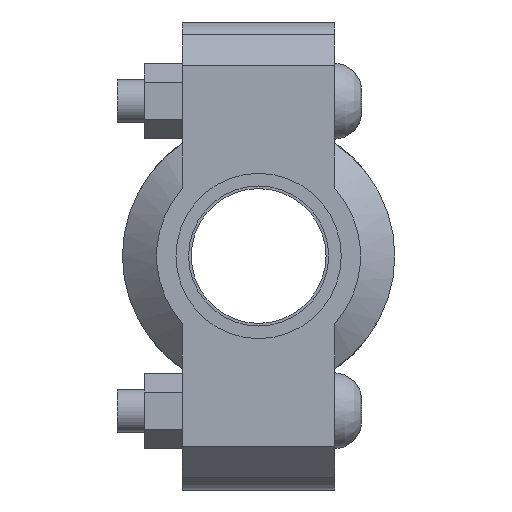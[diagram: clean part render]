
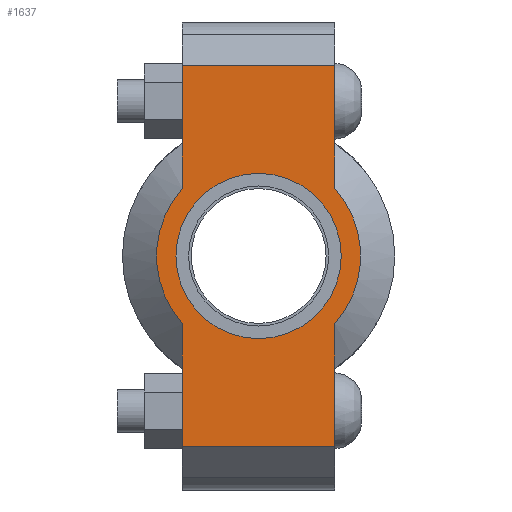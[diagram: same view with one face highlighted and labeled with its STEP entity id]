
A CAD part, left-side view. The second image highlights one B-rep face of the part: STEP entity #1637.
In plain terms, the highlighted planar face has unit normal (-1, 0, 0) as drawn and (0, 0, 1) by its records, which use the part's own axes.
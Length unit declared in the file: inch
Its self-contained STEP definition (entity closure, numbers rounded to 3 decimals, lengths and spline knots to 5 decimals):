
#192=LINE('',#2831,#289);
#207=LINE('',#2890,#304);
#215=LINE('',#2920,#312);
#217=LINE('',#2923,#314);
#218=LINE('',#2928,#315);
#219=LINE('',#2929,#316);
#289=VECTOR('',#2299,0.3937);
#304=VECTOR('',#2334,0.3937);
#312=VECTOR('',#2354,0.3937);
#314=VECTOR('',#2358,0.3937);
#315=VECTOR('',#2363,0.3937);
#316=VECTOR('',#2364,0.3937);
#380=FACE_BOUND('',#557,.T.);
#448=FACE_OUTER_BOUND('',#556,.T.);
#556=EDGE_LOOP('',(#1338,#1339,#1340,#1341,#1342,#1343,#1344,#1345));
#557=EDGE_LOOP('',(#1346));
#639=CIRCLE('',#1865,0.95);
#663=CIRCLE('',#1917,1.172);
#664=CIRCLE('',#1918,1.172);
#735=VERTEX_POINT('',#2657);
#776=VERTEX_POINT('',#2828);
#777=VERTEX_POINT('',#2830);
#798=VERTEX_POINT('',#2885);
#799=VERTEX_POINT('',#2889);
#808=VERTEX_POINT('',#2915);
#809=VERTEX_POINT('',#2919);
#810=VERTEX_POINT('',#2925);
#811=VERTEX_POINT('',#2927);
#899=EDGE_CURVE('',#735,#735,#639,.T.);
#956=EDGE_CURVE('',#777,#776,#192,.T.);
#981=EDGE_CURVE('',#799,#798,#207,.T.);
#994=EDGE_CURVE('',#809,#808,#215,.T.);
#996=EDGE_CURVE('',#809,#776,#217,.T.);
#997=EDGE_CURVE('',#808,#810,#663,.T.);
#998=EDGE_CURVE('',#810,#811,#218,.T.);
#999=EDGE_CURVE('',#799,#811,#219,.T.);
#1000=EDGE_CURVE('',#798,#777,#664,.T.);
#1338=ORIENTED_EDGE('',*,*,#996,.F.);
#1339=ORIENTED_EDGE('',*,*,#994,.T.);
#1340=ORIENTED_EDGE('',*,*,#997,.T.);
#1341=ORIENTED_EDGE('',*,*,#998,.T.);
#1342=ORIENTED_EDGE('',*,*,#999,.F.);
#1343=ORIENTED_EDGE('',*,*,#981,.T.);
#1344=ORIENTED_EDGE('',*,*,#1000,.T.);
#1345=ORIENTED_EDGE('',*,*,#956,.T.);
#1346=ORIENTED_EDGE('',*,*,#899,.T.);
#1477=PLANE('',#1916);
#1637=ADVANCED_FACE('',(#448,#380),#1477,.T.);
#1865=AXIS2_PLACEMENT_3D('',#2659,#2189,#2190);
#1916=AXIS2_PLACEMENT_3D('',#2924,#2359,#2360);
#1917=AXIS2_PLACEMENT_3D('',#2926,#2361,#2362);
#1918=AXIS2_PLACEMENT_3D('',#2930,#2365,#2366);
#2189=DIRECTION('center_axis',(0.,0.,-1.));
#2190=DIRECTION('ref_axis',(-1.,0.,0.));
#2299=DIRECTION('',(-1.,0.,0.));
#2334=DIRECTION('',(-1.,0.,0.));
#2354=DIRECTION('',(1.,0.,0.));
#2358=DIRECTION('',(0.,1.,0.));
#2359=DIRECTION('center_axis',(0.,0.,1.));
#2360=DIRECTION('ref_axis',(1.,0.,0.));
#2361=DIRECTION('center_axis',(0.,0.,1.));
#2362=DIRECTION('ref_axis',(-1.,0.,0.));
#2363=DIRECTION('',(1.,0.,0.));
#2364=DIRECTION('',(0.,-1.,0.));
#2365=DIRECTION('center_axis',(0.,0.,1.));
#2366=DIRECTION('ref_axis',(-1.,0.,0.));
#2657=CARTESIAN_POINT('',(0.95,0.,0.94));
#2659=CARTESIAN_POINT('Origin',(0.,0.,0.94));
#2828=CARTESIAN_POINT('',(-2.19,0.875,0.94));
#2830=CARTESIAN_POINT('',(-0.77972,0.875,0.94));
#2831=CARTESIAN_POINT('',(2.69,0.875,0.94));
#2885=CARTESIAN_POINT('',(0.77972,0.875,0.94));
#2889=CARTESIAN_POINT('',(2.19,0.875,0.94));
#2890=CARTESIAN_POINT('',(2.69,0.875,0.94));
#2915=CARTESIAN_POINT('',(-0.77972,-0.875,0.94));
#2919=CARTESIAN_POINT('',(-2.19,-0.875,0.94));
#2920=CARTESIAN_POINT('',(-2.69,-0.875,0.94));
#2923=CARTESIAN_POINT('',(-2.19,0.4375,0.94));
#2924=CARTESIAN_POINT('Origin',(0.,0.,0.94));
#2925=CARTESIAN_POINT('',(0.77972,-0.875,0.94));
#2926=CARTESIAN_POINT('Origin',(0.,0.,0.94));
#2927=CARTESIAN_POINT('',(2.19,-0.875,0.94));
#2928=CARTESIAN_POINT('',(-2.69,-0.875,0.94));
#2929=CARTESIAN_POINT('',(2.19,-0.4375,0.94));
#2930=CARTESIAN_POINT('Origin',(0.,0.,0.94));
